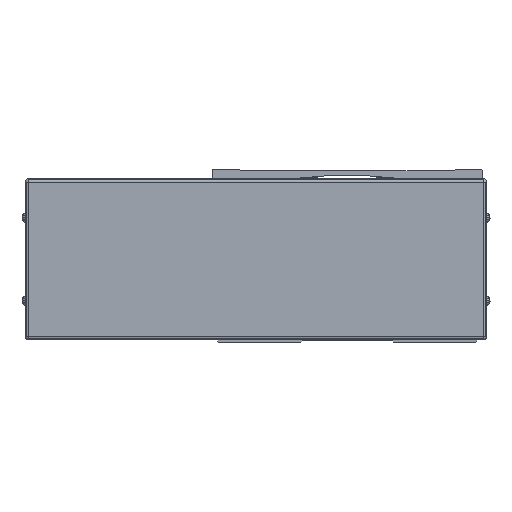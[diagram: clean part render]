
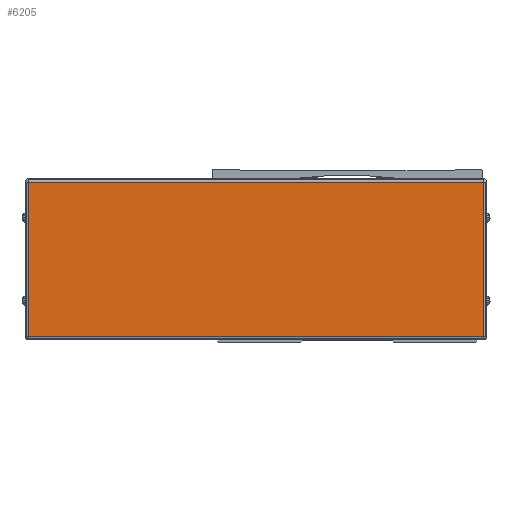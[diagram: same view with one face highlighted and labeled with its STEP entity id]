
A CAD part, front view. The second image highlights one B-rep face of the part: STEP entity #6205.
In plain terms, the highlighted planar face has unit normal (0, -1, 0).
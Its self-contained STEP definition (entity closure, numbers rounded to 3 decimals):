
#6205=ADVANCED_FACE('',(#12493),#12494,.F.);
#12493=FACE_OUTER_BOUND('',#21048,.T.);
#12494=PLANE('',#21049);
#21048=EDGE_LOOP('',(#39435,#39436,#39437,#39438));
#21049=AXIS2_PLACEMENT_3D('',#39439,#39440,#39441);
#39435=ORIENTED_EDGE('',*,*,#46177,.T.);
#39436=ORIENTED_EDGE('',*,*,#44042,.T.);
#39437=ORIENTED_EDGE('',*,*,#42466,.T.);
#39438=ORIENTED_EDGE('',*,*,#42417,.T.);
#39439=CARTESIAN_POINT('',(-655.,27.222,-2.));
#39440=DIRECTION('',(0.,1.0,0.));
#39441=DIRECTION('',(-1.0,0.,0.));
#42417=EDGE_CURVE('',#47566,#51819,#51821,.T.);
#42466=EDGE_CURVE('',#51897,#47566,#51898,.T.);
#44042=EDGE_CURVE('',#54178,#51897,#54179,.T.);
#46177=EDGE_CURVE('',#51819,#54178,#56827,.T.);
#47566=VERTEX_POINT('',#58547);
#51819=VERTEX_POINT('',#64895);
#51821=LINE('',#64897,#64898);
#51897=VERTEX_POINT('',#64995);
#51898=LINE('',#64996,#64997);
#54178=VERTEX_POINT('',#68461);
#54179=LINE('',#68462,#68463);
#56827=LINE('',#72409,#72410);
#58547=CARTESIAN_POINT('',(-517.9,27.222,-48.5));
#64895=CARTESIAN_POINT('',(-517.9,27.222,44.5));
#64897=CARTESIAN_POINT('',(-517.9,27.222,-2.));
#64898=VECTOR('',#77013,10.0);
#64995=CARTESIAN_POINT('',(-792.1,27.222,-48.5));
#64996=CARTESIAN_POINT('',(-655.,27.222,-48.5));
#64997=VECTOR('',#77080,10.0);
#68461=CARTESIAN_POINT('',(-792.1,27.222,44.5));
#68462=CARTESIAN_POINT('',(-792.1,27.222,-2.));
#68463=VECTOR('',#78984,10.0);
#72409=CARTESIAN_POINT('',(-655.,27.222,44.5));
#72410=VECTOR('',#81313,10.0);
#77013=DIRECTION('',(0.,0.,1.0));
#77080=DIRECTION('',(1.0,0.,0.));
#78984=DIRECTION('',(0.,0.,-1.0));
#81313=DIRECTION('',(-1.0,0.,0.));
